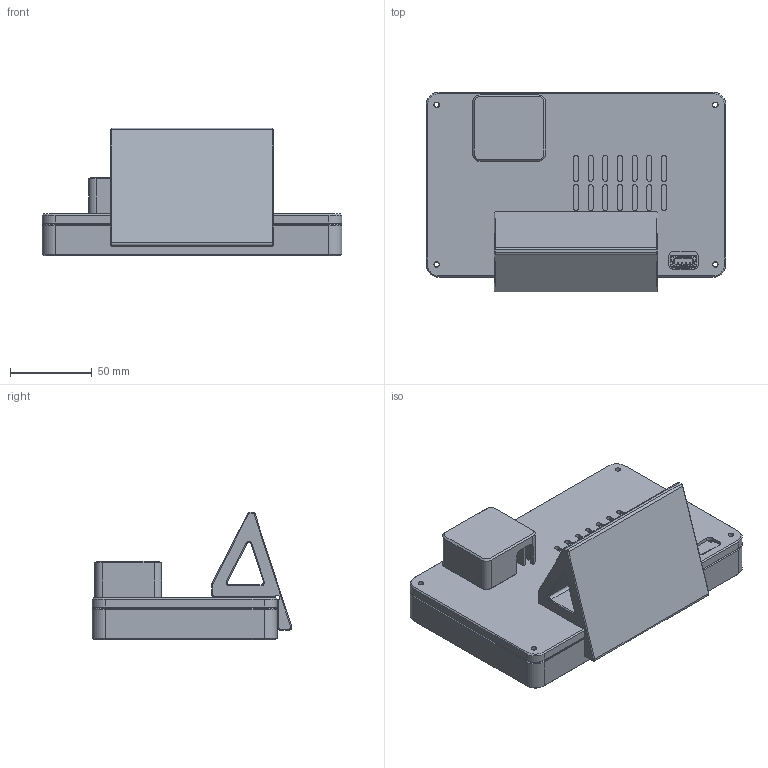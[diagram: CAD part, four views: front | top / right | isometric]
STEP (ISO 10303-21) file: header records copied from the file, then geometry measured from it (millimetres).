
FILE_DESCRIPTION(('Open CASCADE Model'),'2;1');
FILE_NAME('Open CASCADE Shape Model','2026-11-23T07:25:55',('Author'),( 'Open CASCADE'),'Open CASCADE STEP processor 7.9','Open CASCADE 7.9' ,'Unknown');
FILE_SCHEMA(('AUTOMOTIVE_DESIGN { 1 0 10303 214 1 1 1 1 }'));
Length unit declared in the file: millimetre
Products named in the file (6): 64f9f620-e741-11f1-a103-d3bc1608ac9e; bezel; cover; pod; stand; panel
Assembly tree (5 placements, depth 2):
  64f9f620-e741-11f1-a103-d3bc1608ac9e
    bezel
    cover
    pod
    stand
    panel
Bounding box: 184 x 122.51 x 78.3 mm (x, y, z)
Volume: 505039.9 mm3; surface area: 313709.4 mm2
Topology: 56 solids, 56 shells, 4546 faces, 12567 edges, 8276 vertices
Faces by surface type: plane 3944, cylinder 512, cone 66, torus 12, bspline 6, sphere 6
Full cylindrical faces by diameter (mm): 2.8 x4, 3.4 x12, 8 x2
Entity records: 309723 total; most frequent: CARTESIAN_POINT 56793, DIRECTION 46515, LINE 34547, VECTOR 34547, ORIENTED_EDGE 25118, PCURVE 25118, DEFINITIONAL_REPRESENTATION 25118, EDGE_CURVE 12559
